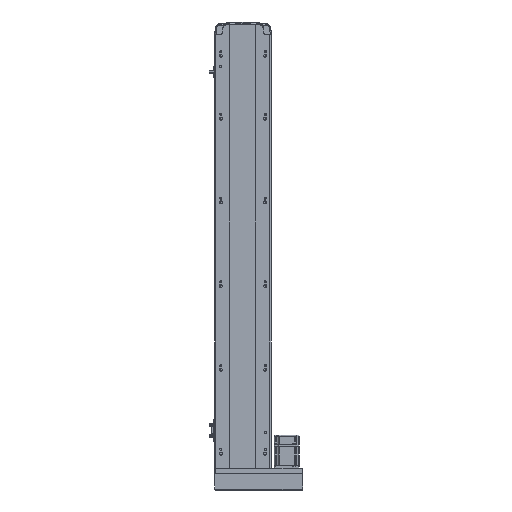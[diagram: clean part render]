
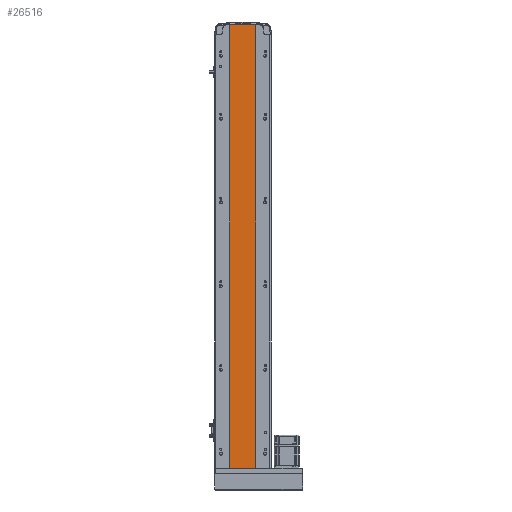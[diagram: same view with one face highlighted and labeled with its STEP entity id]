
A CAD part, front view. The second image highlights one B-rep face of the part: STEP entity #26516.
In plain terms, the highlighted planar face has unit normal (0, -1, 0).
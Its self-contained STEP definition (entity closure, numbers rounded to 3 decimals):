
#892 = CARTESIAN_POINT ( 'NONE',  ( -32., 1., 1059. ) ) ;
#1690 = ORIENTED_EDGE ( 'NONE', *, *, #3461, .T. ) ;
#3218 = ORIENTED_EDGE ( 'NONE', *, *, #54518, .F. ) ;
#3461 = EDGE_CURVE ( 'NONE', #52929, #38042, #19043, .T. ) ;
#6731 = VERTEX_POINT ( 'NONE', #52711 ) ;
#7649 = DIRECTION ( 'NONE',  ( 1., 0., 0. ) ) ;
#8254 = AXIS2_PLACEMENT_3D ( 'NONE', #892, #36728, #9898 ) ;
#9898 = DIRECTION ( 'NONE',  ( -1., 0., 0. ) ) ;
#9907 = DIRECTION ( 'NONE',  ( 0., 0., -1. ) ) ;
#11566 = CARTESIAN_POINT ( 'NONE',  ( 30., 1., 0. ) ) ;
#13018 = EDGE_CURVE ( 'NONE', #6731, #52929, #14710, .T. ) ;
#14710 = LINE ( 'NONE', #36737, #58137 ) ;
#15931 = CARTESIAN_POINT ( 'NONE',  ( -32., 1., 0. ) ) ;
#18373 = DIRECTION ( 'NONE',  ( 1., 0., 0. ) ) ;
#19043 = LINE ( 'NONE', #20150, #38044 ) ;
#19188 = EDGE_CURVE ( 'NONE', #6731, #51440, #56853, .T. ) ;
#20150 = CARTESIAN_POINT ( 'NONE',  ( -32., 1., 0. ) ) ;
#23790 = EDGE_LOOP ( 'NONE', ( #1690, #3218, #28573, #45635 ) ) ;
#26516 = ADVANCED_FACE ( 'NONE', ( #30589 ), #50064, .F. ) ;
#26839 = VECTOR ( 'NONE', #32386, 1000. ) ;
#27686 = CARTESIAN_POINT ( 'NONE',  ( 30., 1., 1059. ) ) ;
#28573 = ORIENTED_EDGE ( 'NONE', *, *, #19188, .F. ) ;
#30589 = FACE_OUTER_BOUND ( 'NONE', #23790, .T. ) ;
#31464 = CARTESIAN_POINT ( 'NONE',  ( 30., 1., 1059. ) ) ;
#32386 = DIRECTION ( 'NONE',  ( 0., 0., -1. ) ) ;
#36038 = CARTESIAN_POINT ( 'NONE',  ( -32., 1., 1059. ) ) ;
#36728 = DIRECTION ( 'NONE',  ( 0., 1., 0. ) ) ;
#36737 = CARTESIAN_POINT ( 'NONE',  ( -32., 1., 1059. ) ) ;
#38042 = VERTEX_POINT ( 'NONE', #11566 ) ;
#38044 = VECTOR ( 'NONE', #7649, 1000. ) ;
#45635 = ORIENTED_EDGE ( 'NONE', *, *, #13018, .T. ) ;
#49305 = LINE ( 'NONE', #27686, #26839 ) ;
#50064 = PLANE ( 'NONE',  #8254 ) ;
#51440 = VERTEX_POINT ( 'NONE', #31464 ) ;
#51999 = VECTOR ( 'NONE', #18373, 1000. ) ;
#52711 = CARTESIAN_POINT ( 'NONE',  ( -32., 1., 1059. ) ) ;
#52929 = VERTEX_POINT ( 'NONE', #15931 ) ;
#54518 = EDGE_CURVE ( 'NONE', #51440, #38042, #49305, .T. ) ;
#56853 = LINE ( 'NONE', #36038, #51999 ) ;
#58137 = VECTOR ( 'NONE', #9907, 1000. ) ;
